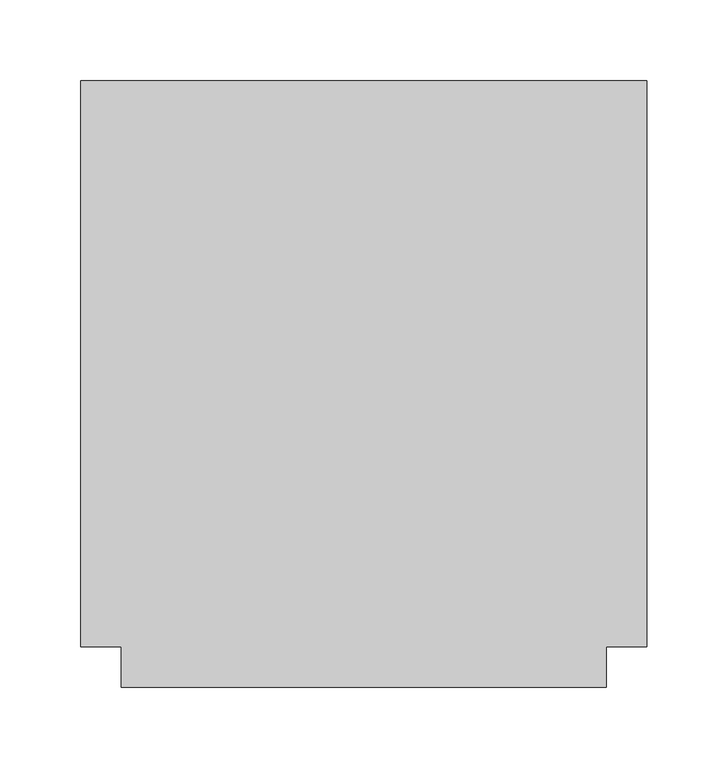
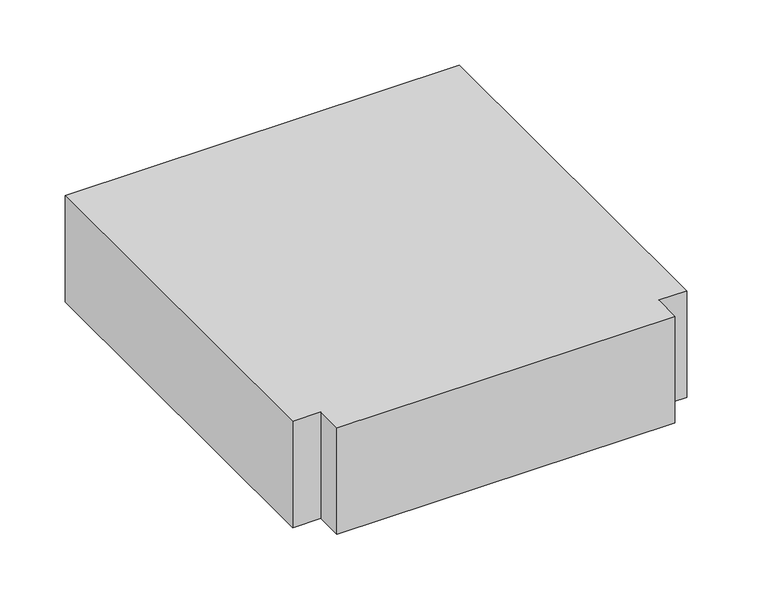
"""IFC4 building model written with IfcOpenShell, lengths in millimetres: duct fitting geometry, M_Te rectangular : Estándar."""

from ifc_helpers import new_model, si_unit, frame, origin, place, context, project, spatial, polyline, outline, extrude, source, transform, mapped, element, save


def duct_fitting_6a77ba01(model_context):
    return source(origin(), model_context, "Body", "SweptSolid", [
        extrude(outline(polyline([(-175.0, -175.0), (-175.0, 175.0), (175.0, 175.0), (175.0, -175.0), (150.0, -175.0), (150.0, -200.0), (-150.0, -200.0), (-150.0, -175.0), (-175.0, -175.0)])), frame((0.0, 0.0, -50.0), z_axis=(0.0, 0.0, 1.0), x_axis=(1.0, 0.0, 0.0)), (0.0, 0.0, 1.0), 100.0),
    ])


if __name__ == "__main__":
    model = new_model("IFC4")
    model_context = context("Model", 3, world=origin())
    ifc_project = project(units=[si_unit("LENGTHUNIT", "METRE", prefix="MILLI")], contexts=[model_context])
    site = spatial("IfcSite", under=ifc_project)
    building = spatial("IfcBuilding", under=site)
    placement = place(None, origin())
    duct_fitting_shape = duct_fitting_6a77ba01(model_context)
    element("IfcDuctFitting", 1, ObjectType="M_Te rectangular : Estándar", at=placement, inside=building, context=model_context, shape_type="MappedRepresentation", body=[
        mapped(duct_fitting_shape, transform((0.0, 0.0, 0.0), x_axis=(1.0, 0.0, 0.0), y_axis=(0.0, 1.0, 0.0), z_axis=(0.0, 0.0, 1.0))),
    ])
    save(model, "model.ifc")
